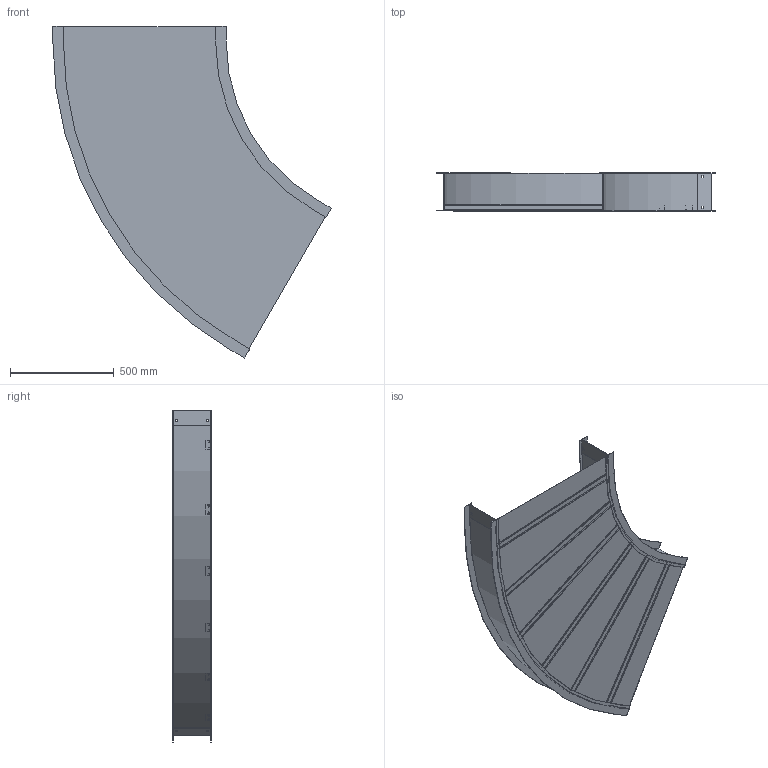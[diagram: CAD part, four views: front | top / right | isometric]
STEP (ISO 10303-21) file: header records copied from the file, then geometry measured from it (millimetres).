
FILE_DESCRIPTION((''),'2;1');
FILE_NAME('AHF730SHB6036_ASM','2010-01-28T',('erouzier'),(''),'PRO/ENGINEER BY PARAMETRIC TECHNOLOGY CORPORATION, 2008510','PRO/ENGINEER BY PARAMETRIC TECHNOLOGY CORPORATION, 2008510','');
FILE_SCHEMA(('CONFIG_CONTROL_DESIGN'));
Length unit declared in the file: inch
Products named in the file (5): CDS001813-7-60-36-I; CDS001813-7-60-66-O; CDS002159L30; ED04588-30-36-60; AHF730SHB6036_ASM
Assembly tree (9 placements, depth 2):
  AHF730SHB6036_ASM
    CDS001813-7-60-36-I
    CDS001813-7-60-66-O
    CDS002159L30  x6
    ED04588-30-36-60
Bounding box: 1341.07 x 183.9 x 1599.54 mm (x, y, z)
Volume: 4022629.5 mm3; surface area: 5081811 mm2
Topology: 9 solids, 9 shells, 274 faces, 768 edges, 512 vertices
Faces by surface type: plane 194, cylinder 80
Entity records: 4173 total; most frequent: CARTESIAN_POINT 718, ORIENTED_EDGE 696, DIRECTION 674, EDGE_CURVE 348, VECTOR 298, LINE 298, VERTEX_POINT 232, AXIS2_PLACEMENT_3D 188
